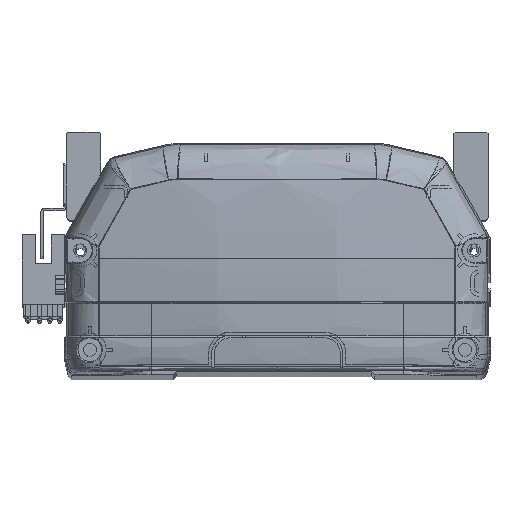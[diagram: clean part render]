
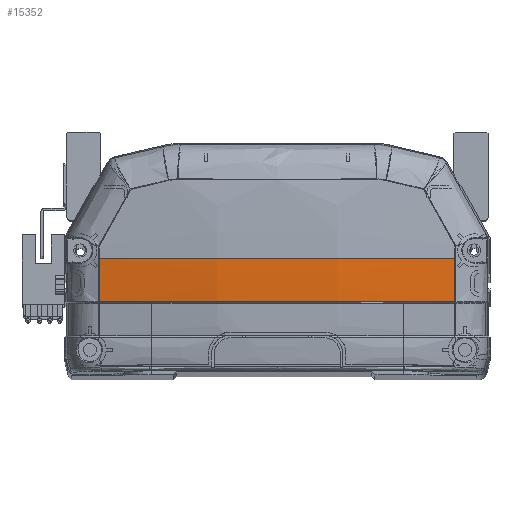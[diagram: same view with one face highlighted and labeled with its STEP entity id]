
A CAD part, top view. The second image highlights one B-rep face of the part: STEP entity #15352.
In plain terms, the highlighted free-form (B-spline) face has degree [3, 3] with [4, 4] control points.
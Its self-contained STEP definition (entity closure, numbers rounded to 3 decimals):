
#423 = CARTESIAN_POINT ( 'NONE',  ( 56.647, 36., -5.158 ) ) ;
#1464 = CARTESIAN_POINT ( 'NONE',  ( 19.295, 21.828, -11.186 ) ) ;
#1482 = CARTESIAN_POINT ( 'NONE',  ( 11.954, 22.225, -9.367 ) ) ;
#1782 = CARTESIAN_POINT ( 'NONE',  ( 57.335, 36., -5.042 ) ) ;
#3071 =( BOUNDED_SURFACE ( )  B_SPLINE_SURFACE ( 3, 3, ( 
 ( #12026, #30709, #16133, #1782 ),
 ( #1464, #30081, #4939, #12181 ),
 ( #19763, #45196, #23392, #27033 ),
 ( #41081, #30396, #37419, #30232 ) ),
 .UNSPECIFIED., .F., .F., .T. ) 
 B_SPLINE_SURFACE_WITH_KNOTS ( ( 4, 4 ),
 ( 4, 4 ),
 ( 0., 1. ),
 ( 0., 1. ),
 .UNSPECIFIED. ) 
 GEOMETRIC_REPRESENTATION_ITEM ( )  RATIONAL_B_SPLINE_SURFACE ( (
 ( 1., 1., 1., 1.),
 ( 0.99, 0.99, 0.99, 0.99),
 ( 0.99, 0.99, 0.99, 0.99),
 ( 1., 1., 1., 1.) ) ) 
 REPRESENTATION_ITEM ( '' )  SURFACE ( )  );
#3427 = EDGE_CURVE ( 'NONE', #12597, #28443, #33706, .T. ) ;
#3786 = DIRECTION ( 'NONE',  ( 0., 1., 0. ) ) ;
#4939 = CARTESIAN_POINT ( 'NONE',  ( 19.295, 31.274, -11.535 ) ) ;
#5108 = CARTESIAN_POINT ( 'NONE',  ( 8.363, 22.225, -9.48 ) ) ;
#5471 = VERTEX_POINT ( 'NONE', #41903 ) ;
#6605 = DIRECTION ( 'NONE',  ( 0., 0., -1. ) ) ;
#6680 = ORIENTED_EDGE ( 'NONE', *, *, #24690, .F. ) ;
#6867 = CARTESIAN_POINT ( 'NONE',  ( -56.647, 36., -5.158 ) ) ;
#7139 = CARTESIAN_POINT ( 'NONE',  ( 56.647, 35.969, -5.158 ) ) ;
#8147 = AXIS2_PLACEMENT_3D ( 'NONE', #19071, #29512, #11929 ) ;
#8587 = CARTESIAN_POINT ( 'NONE',  ( 19.121, 22.225, -9.064 ) ) ;
#9055 = CARTESIAN_POINT ( 'NONE',  ( 56.647, 35.969, -5.158 ) ) ;
#10102 = CARTESIAN_POINT ( 'NONE',  ( 0., 36., 330.833 ) ) ;
#11273 = ORIENTED_EDGE ( 'NONE', *, *, #43694, .T. ) ;
#11465 = B_SPLINE_CURVE_WITH_KNOTS ( 'NONE', 3,
 ( #16149, #44908, #37736, #12664, #8587, #1482, #5108, #45511, #38204, #16451, #16761, #24010, #23859 ),
 .UNSPECIFIED., .F., .F.,
 ( 4, 2, 2, 1, 2, 2, 4 ),
 ( 0., 0.25, 0.375, 0.438, 0.469, 0.5, 1. ),
 .UNSPECIFIED. ) ;
#11929 = DIRECTION ( 'NONE',  ( -1., 0., 0. ) ) ;
#12026 = CARTESIAN_POINT ( 'NONE',  ( 57.335, 22.148, -4.7 ) ) ;
#12181 = CARTESIAN_POINT ( 'NONE',  ( 19.295, 36., -11.535 ) ) ;
#12597 = VERTEX_POINT ( 'NONE', #6867 ) ;
#12664 = CARTESIAN_POINT ( 'NONE',  ( 23.877, 22.225, -8.763 ) ) ;
#13420 = VERTEX_POINT ( 'NONE', #423 ) ;
#13762 = ORIENTED_EDGE ( 'NONE', *, *, #3427, .F. ) ;
#15352 = ADVANCED_FACE ( 'NONE', ( #28882 ), #3071, .T. ) ;
#16133 = CARTESIAN_POINT ( 'NONE',  ( 57.335, 31.38, -5.042 ) ) ;
#16149 = CARTESIAN_POINT ( 'NONE',  ( 56.661, 22.225, -4.818 ) ) ;
#16451 = CARTESIAN_POINT ( 'NONE',  ( 1.152, 22.225, -9.568 ) ) ;
#16761 = CARTESIAN_POINT ( 'NONE',  ( -19.28, 22.225, -9.565 ) ) ;
#17112 = CARTESIAN_POINT ( 'NONE',  ( -56.661, 22.225, -4.818 ) ) ;
#19037 = ORIENTED_EDGE ( 'NONE', *, *, #37405, .F. ) ;
#19071 = CARTESIAN_POINT ( 'NONE',  ( 6452.613, 35.969, -5.158 ) ) ;
#19763 = CARTESIAN_POINT ( 'NONE',  ( -19.295, 21.828, -11.186 ) ) ;
#20206 = CARTESIAN_POINT ( 'NONE',  ( -56.661, 22.225, -4.818 ) ) ;
#23392 = CARTESIAN_POINT ( 'NONE',  ( -19.295, 31.274, -11.535 ) ) ;
#23852 = ORIENTED_EDGE ( 'NONE', *, *, #45763, .F. ) ;
#23859 = CARTESIAN_POINT ( 'NONE',  ( -56.661, 22.225, -4.818 ) ) ;
#24010 = CARTESIAN_POINT ( 'NONE',  ( -38.235, 22.225, -7.93 ) ) ;
#24690 = EDGE_CURVE ( 'NONE', #40742, #13420, #36449, .T. ) ;
#26843 = CIRCLE ( 'NONE', #29744, 340.733 ) ;
#27033 = CARTESIAN_POINT ( 'NONE',  ( -19.295, 36., -11.535 ) ) ;
#28443 = VERTEX_POINT ( 'NONE', #20206 ) ;
#28882 = FACE_OUTER_BOUND ( 'NONE', #38501, .T. ) ;
#29512 = DIRECTION ( 'NONE',  ( 0., 0., -1. ) ) ;
#29744 = AXIS2_PLACEMENT_3D ( 'NONE', #10102, #3786, #6605 ) ;
#30081 = CARTESIAN_POINT ( 'NONE',  ( 19.295, 26.549, -11.419 ) ) ;
#30232 = CARTESIAN_POINT ( 'NONE',  ( -57.335, 36., -5.042 ) ) ;
#30396 = CARTESIAN_POINT ( 'NONE',  ( -57.335, 26.762, -4.928 ) ) ;
#30709 = CARTESIAN_POINT ( 'NONE',  ( 57.335, 26.762, -4.928 ) ) ;
#33647 = B_SPLINE_CURVE_WITH_KNOTS ( 'NONE', 3,
 ( #41417, #45223, #45516, #9055 ),
 .UNSPECIFIED., .F., .F.,
 ( 4, 4 ),
 ( 0., 1. ),
 .UNSPECIFIED. ) ;
#33706 = B_SPLINE_CURVE_WITH_KNOTS ( 'NONE', 3,
 ( #38699, #42352, #38861, #17112 ),
 .UNSPECIFIED., .F., .F.,
 ( 4, 4 ),
 ( 0., 1. ),
 .UNSPECIFIED. ) ;
#36449 = CIRCLE ( 'NONE', #8147, 6395.966 ) ;
#37405 = EDGE_CURVE ( 'NONE', #13420, #12597, #26843, .T. ) ;
#37419 = CARTESIAN_POINT ( 'NONE',  ( -57.335, 31.38, -5.042 ) ) ;
#37736 = CARTESIAN_POINT ( 'NONE',  ( 38.071, 22.225, -7.566 ) ) ;
#38204 = CARTESIAN_POINT ( 'NONE',  ( 2.357, 22.225, -9.562 ) ) ;
#38501 = EDGE_LOOP ( 'NONE', ( #19037, #6680, #23852, #11273, #13762 ) ) ;
#38699 = CARTESIAN_POINT ( 'NONE',  ( -56.647, 36., -5.158 ) ) ;
#38861 = CARTESIAN_POINT ( 'NONE',  ( -56.652, 26.814, -5.045 ) ) ;
#40742 = VERTEX_POINT ( 'NONE', #7139 ) ;
#41081 = CARTESIAN_POINT ( 'NONE',  ( -57.335, 22.148, -4.7 ) ) ;
#41417 = CARTESIAN_POINT ( 'NONE',  ( 56.661, 22.225, -4.818 ) ) ;
#41903 = CARTESIAN_POINT ( 'NONE',  ( 56.661, 22.225, -4.818 ) ) ;
#42352 = CARTESIAN_POINT ( 'NONE',  ( -56.647, 31.405, -5.158 ) ) ;
#43694 = EDGE_CURVE ( 'NONE', #5471, #28443, #11465, .T. ) ;
#44908 = CARTESIAN_POINT ( 'NONE',  ( 47.432, 22.225, -6.377 ) ) ;
#45196 = CARTESIAN_POINT ( 'NONE',  ( -19.295, 26.549, -11.419 ) ) ;
#45223 = CARTESIAN_POINT ( 'NONE',  ( 56.652, 26.806, -5.044 ) ) ;
#45511 = CARTESIAN_POINT ( 'NONE',  ( 4.761, 22.225, -9.537 ) ) ;
#45516 = CARTESIAN_POINT ( 'NONE',  ( 56.647, 31.387, -5.158 ) ) ;
#45763 = EDGE_CURVE ( 'NONE', #5471, #40742, #33647, .T. ) ;
